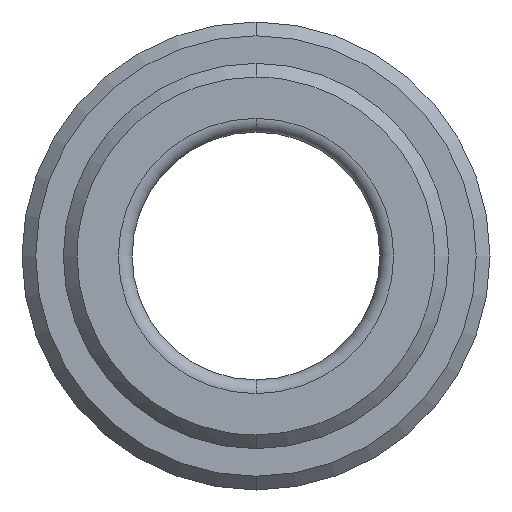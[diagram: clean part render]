
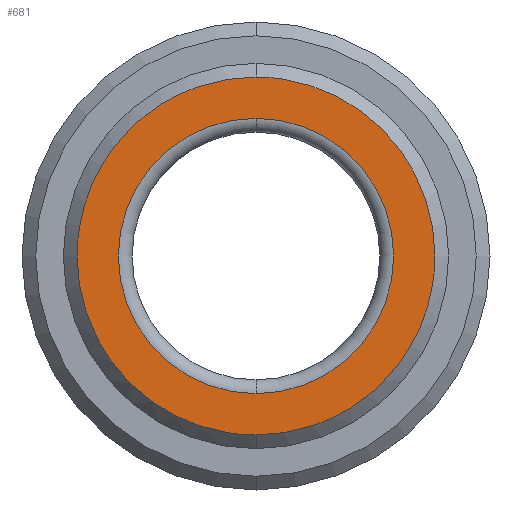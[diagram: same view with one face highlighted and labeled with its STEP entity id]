
A CAD part, front view. The second image highlights one B-rep face of the part: STEP entity #681.
In plain terms, the highlighted planar face has unit normal (0, -1, 0).
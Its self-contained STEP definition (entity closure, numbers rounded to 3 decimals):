
#465=CARTESIAN_POINT('Vertex',(0.,0.,-10.)) ;
#468=CARTESIAN_POINT('Axis2P3D Location',(0.,0.,0.)) ;
#472=CARTESIAN_POINT('Vertex',(10.,0.,0.)) ;
#475=CARTESIAN_POINT('Axis2P3D Location',(0.,0.,0.)) ;
#479=CARTESIAN_POINT('Vertex',(0.,0.,10.)) ;
#501=CARTESIAN_POINT('Axis2P3D Location',(0.,0.,0.)) ;
#505=CARTESIAN_POINT('Vertex',(-10.,0.,0.)) ;
#508=CARTESIAN_POINT('Axis2P3D Location',(0.,0.,0.)) ;
#588=CARTESIAN_POINT('Axis2P3D Location',(-10.,0.,0.)) ;
#594=CARTESIAN_POINT('Control Point',(13.,0.,0.)) ;
#595=CARTESIAN_POINT('Control Point',(13.,0.,1.236)) ;
#596=CARTESIAN_POINT('Control Point',(12.853,0.,2.473)) ;
#597=CARTESIAN_POINT('Control Point',(12.559,0.,3.686)) ;
#598=CARTESIAN_POINT('Control Point',(11.688,0.,6.019)) ;
#599=CARTESIAN_POINT('Control Point',(10.295,0.,8.083)) ;
#600=CARTESIAN_POINT('Control Point',(9.478,0.,9.027)) ;
#601=CARTESIAN_POINT('Control Point',(7.635,0.,10.702)) ;
#602=CARTESIAN_POINT('Control Point',(5.452,0.,11.899)) ;
#603=CARTESIAN_POINT('Control Point',(4.293,0.,12.365)) ;
#604=CARTESIAN_POINT('Control Point',(2.726,0.,12.786)) ;
#605=CARTESIAN_POINT('Control Point',(1.124,0.,12.959)) ;
#606=CARTESIAN_POINT('Control Point',(0.749,0.,12.986)) ;
#607=CARTESIAN_POINT('Control Point',(0.375,0.,13.)) ;
#608=CARTESIAN_POINT('Control Point',(0.,0.,13.)) ;
#609=CARTESIAN_POINT('Vertex',(13.,0.,0.)) ;
#611=CARTESIAN_POINT('Vertex',(0.,0.,13.)) ;
#615=CARTESIAN_POINT('Control Point',(0.,0.,13.)) ;
#616=CARTESIAN_POINT('Control Point',(-0.862,0.,13.)) ;
#617=CARTESIAN_POINT('Control Point',(-1.723,0.,12.929)) ;
#618=CARTESIAN_POINT('Control Point',(-2.577,0.,12.786)) ;
#619=CARTESIAN_POINT('Control Point',(-4.618,0.,12.267)) ;
#620=CARTESIAN_POINT('Control Point',(-6.521,0.,11.349)) ;
#621=CARTESIAN_POINT('Control Point',(-7.572,0.,10.676)) ;
#622=CARTESIAN_POINT('Control Point',(-9.495,0.,9.093)) ;
#623=CARTESIAN_POINT('Control Point',(-10.993,0.,7.104)) ;
#624=CARTESIAN_POINT('Control Point',(-11.62,0.,6.025)) ;
#625=CARTESIAN_POINT('Control Point',(-12.411,0.,4.188)) ;
#626=CARTESIAN_POINT('Control Point',(-12.838,0.,2.243)) ;
#627=CARTESIAN_POINT('Control Point',(-12.946,0.,1.499)) ;
#628=CARTESIAN_POINT('Control Point',(-13.,0.,0.749)) ;
#629=CARTESIAN_POINT('Control Point',(-13.,0.,0.)) ;
#630=CARTESIAN_POINT('Vertex',(-13.,0.,0.)) ;
#634=CARTESIAN_POINT('Control Point',(-13.,0.,0.)) ;
#635=CARTESIAN_POINT('Control Point',(-13.,0.,-1.236)) ;
#636=CARTESIAN_POINT('Control Point',(-12.853,0.,-2.473)) ;
#637=CARTESIAN_POINT('Control Point',(-12.559,0.,-3.686)) ;
#638=CARTESIAN_POINT('Control Point',(-11.688,0.,-6.019)) ;
#639=CARTESIAN_POINT('Control Point',(-10.295,0.,-8.083)) ;
#640=CARTESIAN_POINT('Control Point',(-9.478,0.,-9.027)) ;
#641=CARTESIAN_POINT('Control Point',(-7.635,0.,-10.702)) ;
#642=CARTESIAN_POINT('Control Point',(-5.452,0.,-11.899)) ;
#643=CARTESIAN_POINT('Control Point',(-4.293,0.,-12.365)) ;
#644=CARTESIAN_POINT('Control Point',(-2.726,0.,-12.786)) ;
#645=CARTESIAN_POINT('Control Point',(-1.124,0.,-12.959)) ;
#646=CARTESIAN_POINT('Control Point',(-0.749,0.,-12.986)) ;
#647=CARTESIAN_POINT('Control Point',(-0.375,0.,-13.)) ;
#648=CARTESIAN_POINT('Control Point',(0.,0.,-13.)) ;
#649=CARTESIAN_POINT('Vertex',(0.,0.,-13.)) ;
#653=CARTESIAN_POINT('Control Point',(0.,0.,-13.)) ;
#654=CARTESIAN_POINT('Control Point',(0.862,0.,-13.)) ;
#655=CARTESIAN_POINT('Control Point',(1.723,0.,-12.929)) ;
#656=CARTESIAN_POINT('Control Point',(2.577,0.,-12.786)) ;
#657=CARTESIAN_POINT('Control Point',(4.618,0.,-12.267)) ;
#658=CARTESIAN_POINT('Control Point',(6.521,0.,-11.349)) ;
#659=CARTESIAN_POINT('Control Point',(7.572,0.,-10.676)) ;
#660=CARTESIAN_POINT('Control Point',(9.495,0.,-9.093)) ;
#661=CARTESIAN_POINT('Control Point',(10.993,0.,-7.104)) ;
#662=CARTESIAN_POINT('Control Point',(11.62,0.,-6.025)) ;
#663=CARTESIAN_POINT('Control Point',(12.411,0.,-4.188)) ;
#664=CARTESIAN_POINT('Control Point',(12.838,0.,-2.243)) ;
#665=CARTESIAN_POINT('Control Point',(12.946,0.,-1.499)) ;
#666=CARTESIAN_POINT('Control Point',(13.,0.,-0.749)) ;
#667=CARTESIAN_POINT('Control Point',(13.,0.,0.)) ;
#469=DIRECTION('Axis2P3D Direction',(0.,-1.,0.)) ;
#476=DIRECTION('Axis2P3D Direction',(0.,-1.,0.)) ;
#502=DIRECTION('Axis2P3D Direction',(0.,-1.,0.)) ;
#509=DIRECTION('Axis2P3D Direction',(0.,-1.,0.)) ;
#589=DIRECTION('Axis2P3D Direction',(0.,1.,0.)) ;
#590=DIRECTION('Axis2P3D XDirection',(1.,0.,-0.)) ;
#470=AXIS2_PLACEMENT_3D('Circle Axis2P3D',#468,#469,$) ;
#477=AXIS2_PLACEMENT_3D('Circle Axis2P3D',#475,#476,$) ;
#503=AXIS2_PLACEMENT_3D('Circle Axis2P3D',#501,#502,$) ;
#510=AXIS2_PLACEMENT_3D('Circle Axis2P3D',#508,#509,$) ;
#591=AXIS2_PLACEMENT_3D('Plane Axis2P3D',#588,#589,#590) ;
#670=ORIENTED_EDGE('',*,*,#613,.T.) ;
#671=ORIENTED_EDGE('',*,*,#632,.T.) ;
#672=ORIENTED_EDGE('',*,*,#651,.T.) ;
#673=ORIENTED_EDGE('',*,*,#668,.T.) ;
#676=ORIENTED_EDGE('',*,*,#474,.F.) ;
#677=ORIENTED_EDGE('',*,*,#512,.F.) ;
#678=ORIENTED_EDGE('',*,*,#507,.F.) ;
#679=ORIENTED_EDGE('',*,*,#481,.F.) ;
#680=FACE_BOUND('',#675,.T.) ;
#681=ADVANCED_FACE('Rivoluzione1',(#674,#680),#592,.F.) ;
#593=B_SPLINE_CURVE_WITH_KNOTS('',5,(#594,#595,#596,#597,#598,#599,#600,#601,#602,#603,#604,#605,#606,#607,#608),.UNSPECIFIED.,.F.,.U.,(6,3,3,3,6),(0.,8.743,17.486,26.229,28.878),.UNSPECIFIED.) ;
#614=B_SPLINE_CURVE_WITH_KNOTS('',5,(#615,#616,#617,#618,#619,#620,#621,#622,#623,#624,#625,#626,#627,#628,#629),.UNSPECIFIED.,.F.,.U.,(6,3,3,3,6),(28.878,34.972,43.715,52.457,57.757),.UNSPECIFIED.) ;
#633=B_SPLINE_CURVE_WITH_KNOTS('',5,(#634,#635,#636,#637,#638,#639,#640,#641,#642,#643,#644,#645,#646,#647,#648),.UNSPECIFIED.,.F.,.U.,(6,3,3,3,6),(0.,8.743,17.486,26.229,28.878),.UNSPECIFIED.) ;
#652=B_SPLINE_CURVE_WITH_KNOTS('',5,(#653,#654,#655,#656,#657,#658,#659,#660,#661,#662,#663,#664,#665,#666,#667),.UNSPECIFIED.,.F.,.U.,(6,3,3,3,6),(28.878,34.972,43.715,52.457,57.757),.UNSPECIFIED.) ;
#471=CIRCLE('generated circle',#470,10.) ;
#478=CIRCLE('generated circle',#477,10.) ;
#504=CIRCLE('generated circle',#503,10.) ;
#511=CIRCLE('generated circle',#510,10.) ;
#474=EDGE_CURVE('',#466,#473,#471,.T.) ;
#481=EDGE_CURVE('',#473,#480,#478,.T.) ;
#507=EDGE_CURVE('',#480,#506,#504,.T.) ;
#512=EDGE_CURVE('',#506,#466,#511,.T.) ;
#613=EDGE_CURVE('',#610,#612,#593,.T.) ;
#632=EDGE_CURVE('',#612,#631,#614,.T.) ;
#651=EDGE_CURVE('',#631,#650,#633,.T.) ;
#668=EDGE_CURVE('',#650,#610,#652,.T.) ;
#669=EDGE_LOOP('',(#670,#671,#672,#673)) ;
#675=EDGE_LOOP('',(#676,#677,#678,#679)) ;
#674=FACE_OUTER_BOUND('',#669,.T.) ;
#592=PLANE('Plane',#591) ;
#466=VERTEX_POINT('',#465) ;
#473=VERTEX_POINT('',#472) ;
#480=VERTEX_POINT('',#479) ;
#506=VERTEX_POINT('',#505) ;
#610=VERTEX_POINT('',#609) ;
#612=VERTEX_POINT('',#611) ;
#631=VERTEX_POINT('',#630) ;
#650=VERTEX_POINT('',#649) ;
